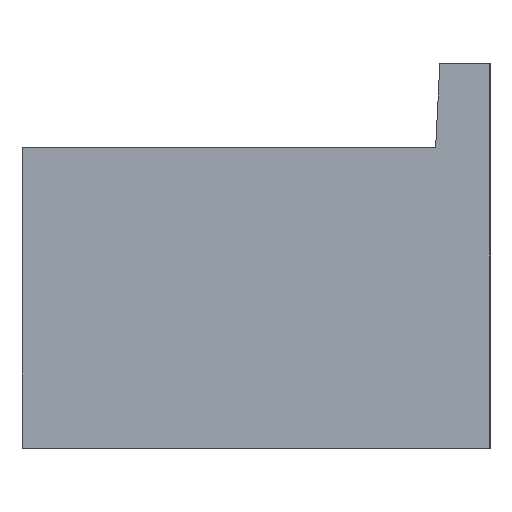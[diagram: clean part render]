
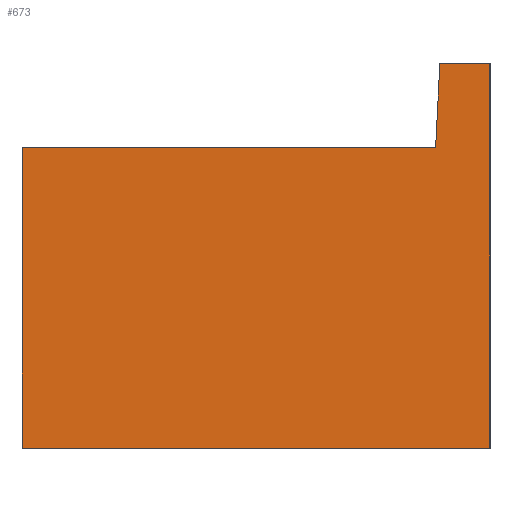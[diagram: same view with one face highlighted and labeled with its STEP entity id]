
A CAD part, left-side view. The second image highlights one B-rep face of the part: STEP entity #673.
In plain terms, the highlighted planar face has unit normal (-1, 0, 0).
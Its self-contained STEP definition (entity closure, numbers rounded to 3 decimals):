
#47=(
BOUNDED_CURVE()
B_SPLINE_CURVE(5,(#1058,#1059,#1060,#1061,#1062,#1063,#1064),
 .UNSPECIFIED.,.F.,.F.)
B_SPLINE_CURVE_WITH_KNOTS((6,1,6),(0.,0.1,0.161),
 .UNSPECIFIED.)
CURVE()
GEOMETRIC_REPRESENTATION_ITEM()
RATIONAL_B_SPLINE_CURVE((1.,1.,1.,1.,1.,1.,1.))
REPRESENTATION_ITEM('')
);
#60=FACE_OUTER_BOUND('',#96,.T.);
#96=EDGE_LOOP('',(#499,#500,#501,#502,#503,#504,#505));
#136=LINE('',#931,#210);
#145=LINE('',#974,#219);
#155=LINE('',#1174,#229);
#156=LINE('',#1176,#230);
#157=LINE('',#1178,#231);
#158=LINE('',#1179,#232);
#210=VECTOR('',#770,10.);
#219=VECTOR('',#783,10.);
#229=VECTOR('',#807,10.);
#230=VECTOR('',#808,10.);
#231=VECTOR('',#809,10.);
#232=VECTOR('',#810,10.);
#283=VERTEX_POINT('',#928);
#284=VERTEX_POINT('',#930);
#291=VERTEX_POINT('',#972);
#298=VERTEX_POINT('',#1052);
#299=VERTEX_POINT('',#1057);
#309=VERTEX_POINT('',#1175);
#310=VERTEX_POINT('',#1177);
#349=EDGE_CURVE('',#284,#283,#136,.T.);
#360=EDGE_CURVE('',#291,#283,#145,.T.);
#368=EDGE_CURVE('',#299,#298,#47,.T.);
#383=EDGE_CURVE('',#284,#298,#155,.T.);
#384=EDGE_CURVE('',#309,#291,#156,.T.);
#385=EDGE_CURVE('',#310,#309,#157,.T.);
#386=EDGE_CURVE('',#299,#310,#158,.T.);
#499=ORIENTED_EDGE('',*,*,#383,.F.);
#500=ORIENTED_EDGE('',*,*,#349,.T.);
#501=ORIENTED_EDGE('',*,*,#360,.F.);
#502=ORIENTED_EDGE('',*,*,#384,.F.);
#503=ORIENTED_EDGE('',*,*,#385,.F.);
#504=ORIENTED_EDGE('',*,*,#386,.F.);
#505=ORIENTED_EDGE('',*,*,#368,.T.);
#642=PLANE('',#723);
#673=ADVANCED_FACE('',(#60),#642,.T.);
#723=AXIS2_PLACEMENT_3D('',#1173,#805,#806);
#770=DIRECTION('',(0.,0.,-1.));
#783=DIRECTION('',(0.,0.,1.));
#805=DIRECTION('center_axis',(-1.,0.,0.));
#806=DIRECTION('ref_axis',(0.,0.,-1.));
#807=DIRECTION('',(0.,-1.,0.));
#808=DIRECTION('',(0.,1.,0.));
#809=DIRECTION('',(0.,0.,-1.));
#810=DIRECTION('',(0.,-1.,0.));
#928=CARTESIAN_POINT('',(19.75,59.,-22.));
#930=CARTESIAN_POINT('',(19.75,59.,-7.));
#931=CARTESIAN_POINT('',(19.75,59.,-7.));
#972=CARTESIAN_POINT('',(19.75,59.,-25.));
#974=CARTESIAN_POINT('',(19.75,59.,-25.));
#1052=CARTESIAN_POINT('',(19.75,34.254,-7.));
#1057=CARTESIAN_POINT('',(19.75,34.,-2.));
#1058=CARTESIAN_POINT('Ctrl Pts',(19.75,34.,-2.));
#1059=CARTESIAN_POINT('Ctrl Pts',(19.75,34.016,-2.656));
#1060=CARTESIAN_POINT('Ctrl Pts',(19.75,34.049,-3.693));
#1061=CARTESIAN_POINT('Ctrl Pts',(19.75,34.094,-4.703));
#1062=CARTESIAN_POINT('Ctrl Pts',(19.75,34.153,-5.687));
#1063=CARTESIAN_POINT('Ctrl Pts',(19.75,34.225,-6.643));
#1064=CARTESIAN_POINT('Ctrl Pts',(19.75,34.254,-7.));
#1173=CARTESIAN_POINT('Origin',(19.75,34.,-2.));
#1174=CARTESIAN_POINT('',(19.75,59.,-7.));
#1175=CARTESIAN_POINT('',(19.75,31.,-25.));
#1176=CARTESIAN_POINT('',(19.75,34.,-25.));
#1177=CARTESIAN_POINT('',(19.75,31.,-2.));
#1178=CARTESIAN_POINT('',(19.75,31.,-25.));
#1179=CARTESIAN_POINT('',(19.75,34.,-2.));
